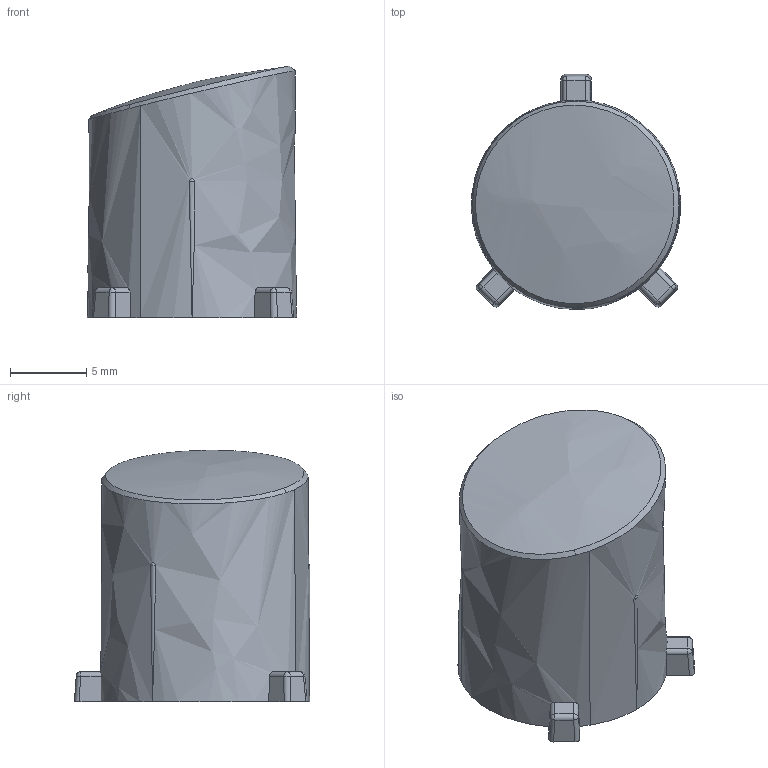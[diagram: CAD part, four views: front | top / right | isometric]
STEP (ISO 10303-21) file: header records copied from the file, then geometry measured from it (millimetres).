
FILE_DESCRIPTION(/* description */ (''),/* implementation_level */ '2;1');
FILE_NAME(/* name */ 'trigger R',/* time_stamp */ '2026-04-10T20:08:24+09:00',/* author */ (''),/* organization */ (''),/* preprocessor_version */ 'ST-DEVELOPER v16.5',/* originating_system */ '',/* authorisation */ '');
FILE_SCHEMA (('CONFIG_CONTROL_DESIGN'));
Length unit declared in the file: millimetre
Products named in the file (1): Document
Bounding box: 13.69 x 15.39 x 16.44 mm (x, y, z)
Volume: 1294.5 mm3; surface area: 1857.1 mm2
Topology: 1 solids, 1 shells, 67 faces, 167 edges, 104 vertices
Faces by surface type: bspline 24, cylinder 24, plane 19
Entity records: 2602 total; most frequent: CARTESIAN_POINT 1463, ORIENTED_EDGE 334, EDGE_CURVE 167, VERTEX_POINT 104, B_SPLINE_CURVE_WITH_KNOTS 103, EDGE_LOOP 69, ADVANCED_FACE 67, FACE_OUTER_BOUND 67
